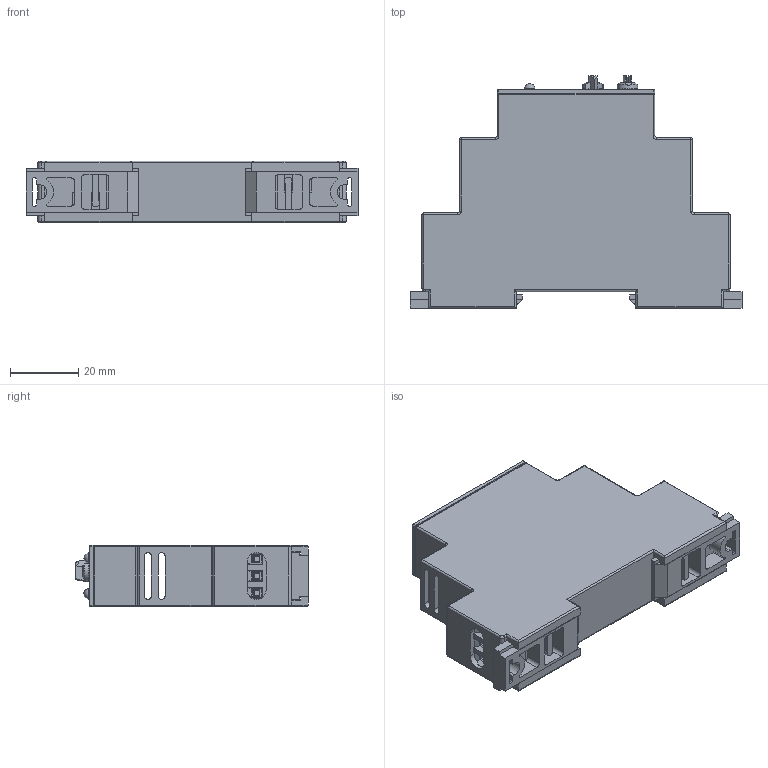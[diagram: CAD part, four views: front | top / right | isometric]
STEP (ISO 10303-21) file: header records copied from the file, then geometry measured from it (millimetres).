
FILE_DESCRIPTION(('STEP AP214'), '1');
FILE_NAME('Ðåëå ÐÑÂ18Ì-11 (3D Çàêàç÷èêàì)', '2023-05-22T11:29:02', (''), (''), 'ASCON STEP Converter 1.6', 'ASCON Math Kernel', '');
FILE_SCHEMA(('AUTOMOTIVE_DESIGN { 1 0 10303 214 3 1 1}'));
Length unit declared in the file: millimetre
Bounding box: 97 x 67.85 x 18 mm (x, y, z)
Volume: 25274.1 mm3; surface area: 35489.9 mm2
Topology: 13 solids, 13 shells, 3036 faces, 8417 edges, 5491 vertices
Faces by surface type: plane 1657, cylinder 1301, torus 30, bspline 22, sphere 14, cone 12
Full cylindrical faces by diameter (mm): 0.3 x4, 1.8 x6, 2.013 x6, 2.2 x2, 2.5 x6, 2.6 x6, 3 x2, 3.2 x4, 4 x8, 4.1 x6
Entity records: 123316 total; most frequent: CARTESIAN_POINT 19284, DIRECTION 16904, ORIENTED_EDGE 16674, EDGE_CURVE 8337, AXIS2_PLACEMENT_3D 5689, LINE 5526, VECTOR 5526, VERTEX_POINT 5489
